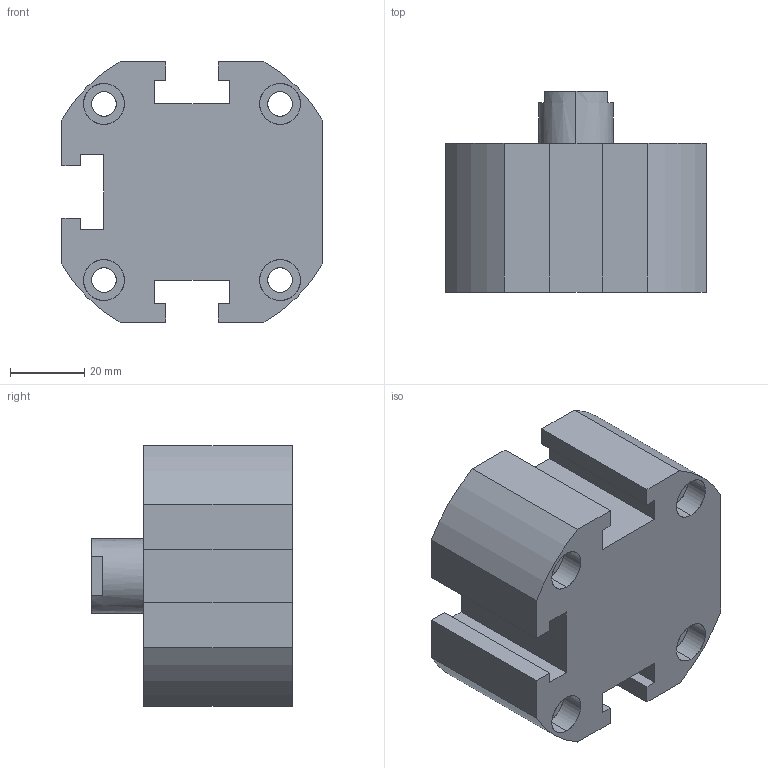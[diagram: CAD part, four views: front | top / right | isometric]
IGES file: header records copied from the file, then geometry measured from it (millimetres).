
Start section: SolidWorks IGES file using analytic representation for surfaces
Global section: file name: C:\Users\Toshiba\Desktop\XC#0-50-10.IGS; native system: SolidWorks 2014; preprocessor: SolidWorks 2014; author: Toshiba; date: 160523.150701; units: millimetre
Bounding box: 70 x 54 x 70 mm (x, y, z)
Surface area: 27608.2 mm2 (no closed solid volume)
Topology: 0 solids, 0 shells, 107 faces, 1922 edges, 1918 vertices
Faces by surface type: revolution 58, bspline 49
